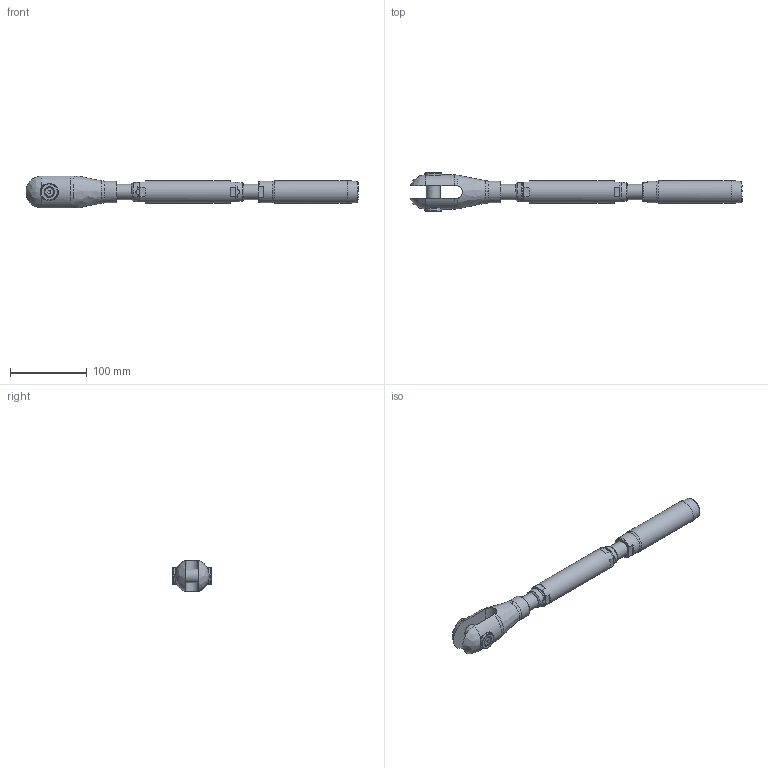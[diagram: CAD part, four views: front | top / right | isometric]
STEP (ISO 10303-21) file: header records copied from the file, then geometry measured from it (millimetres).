
FILE_DESCRIPTION(/* description */ (''),/* implementation_level */ '2;1');
FILE_NAME(/* name */ 'TBC 12_1,4462',/* time_stamp */ '2023-05-23T18:17:02+02:00',/* author */ (''),/* organization */ (''),/* preprocessor_version */ 'ST-DEVELOPER v16.5',/* originating_system */ 'Rhino 7.22',/* authorisation */ '');
FILE_SCHEMA (('CONFIG_CONTROL_DESIGN'));
Length unit declared in the file: millimetre
Products named in the file (1): Document
Bounding box: 433.8 x 49.79 x 41.67 mm (x, y, z)
Volume: 277870.5 mm3; surface area: 72072.5 mm2
Topology: 10 solids, 10 shells, 141 faces, 383 edges, 264 vertices
Faces by surface type: plane 65, bspline 41, cylinder 35
Full cylindrical faces by diameter (mm): 4.917 x2, 6 x2, 6.5 x2, 11.34 x2, 17.294 x4, 18 x1, 19 x2, 20 x2, 22 x2, 24 x1, 28.6 x2, 29 x1, 30 x1
Entity records: 5898 total; most frequent: CARTESIAN_POINT 3466, ORIENTED_EDGE 758, EDGE_CURVE 379, VERTEX_POINT 264, EDGE_LOOP 161, B_SPLINE_CURVE_WITH_KNOTS 158, ADVANCED_FACE 141, FACE_OUTER_BOUND 141
